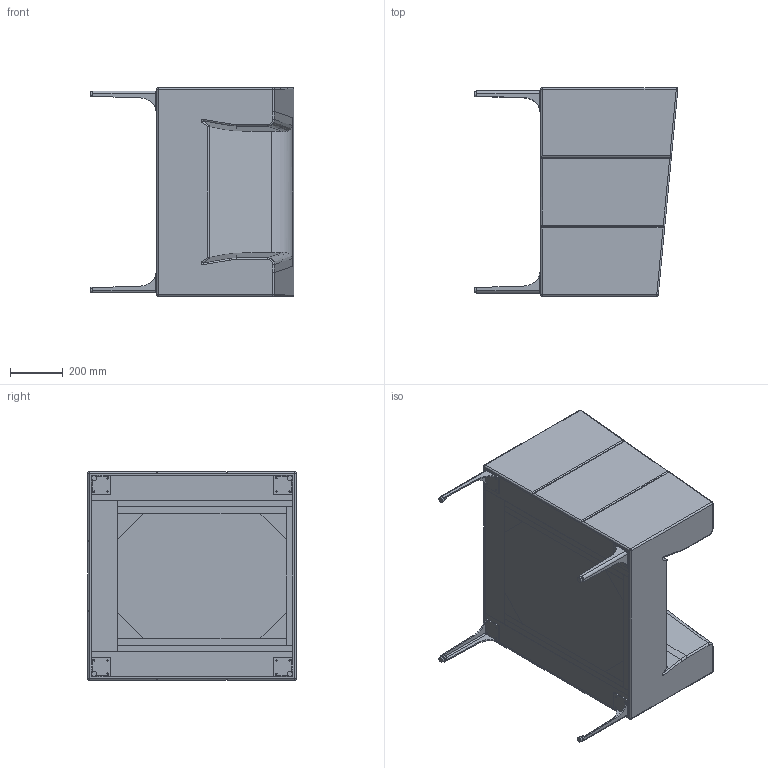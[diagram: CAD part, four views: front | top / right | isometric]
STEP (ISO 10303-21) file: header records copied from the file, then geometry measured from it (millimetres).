
FILE_DESCRIPTION (( 'STEP AP203' ), '1' );
FILE_NAME ('Armour Single Seater Sofa W790 x D790 x H770.STEP', '2024-04-06T06:16:21', ( '' ), ( '' ), 'SwSTEP 2.0', 'SolidWorks 2023', '' );
FILE_SCHEMA (( 'CONFIG_CONTROL_DESIGN' ));
Length unit declared in the file: millimetre
Products named in the file (6): Armour Sturcture; MirrorArmour Leg; AS_Sofa 1; M10 Leveller; Armour Single Seater Sofa W790 x D790 x H770; Armour Leg
Assembly tree (10 placements, depth 2):
  Armour Single Seater Sofa W790 x D790 x H770
    Armour Sturcture
    Armour Leg  x2
    MirrorArmour Leg  x2
    M10 Leveller  x4
    AS_Sofa 1
Bounding box: 771.4 x 790 x 790 mm (x, y, z)
Volume: 254140996 mm3; surface area: 6885503.4 mm2
Topology: 41 solids, 41 shells, 473 faces, 1092 edges, 692 vertices
Faces by surface type: plane 319, cylinder 126, bspline 17, sphere 11
Entity records: 11619 total; most frequent: CARTESIAN_POINT 2584, ORIENTED_EDGE 1704, DIRECTION 1643, EDGE_CURVE 852, LINE 665, VECTOR 665, VERTEX_POINT 544, AXIS2_PLACEMENT_3D 489
